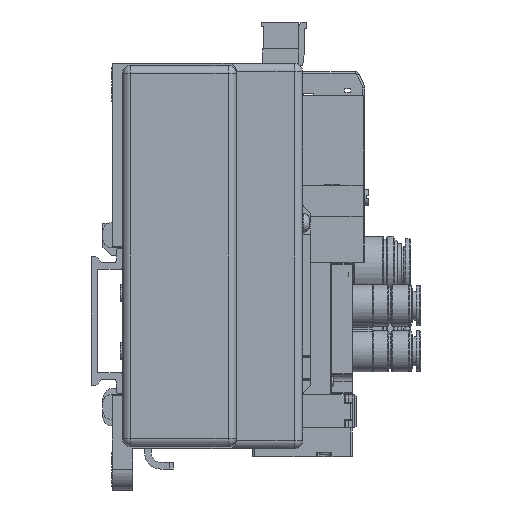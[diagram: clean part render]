
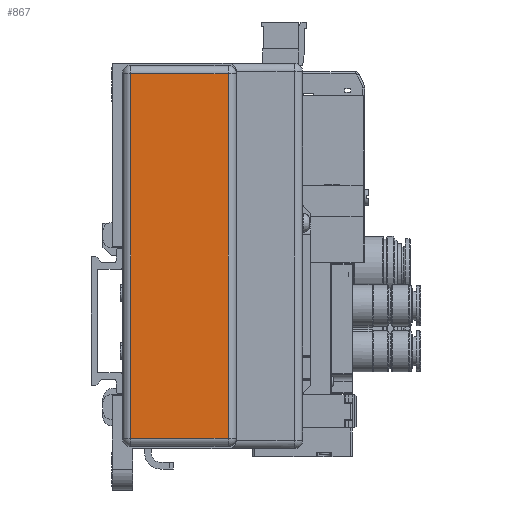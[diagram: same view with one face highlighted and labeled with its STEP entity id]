
A CAD part, left-side view. The second image highlights one B-rep face of the part: STEP entity #867.
In plain terms, the highlighted planar face has unit normal (-1, 0, 0).
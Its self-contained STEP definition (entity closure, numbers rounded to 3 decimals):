
#867=ADVANCED_FACE('',(#2761),#2760,.T.);
#2760=PLANE('',#20901);
#2761=FACE_OUTER_BOUND('',#20902,.T.);
#20898=CARTESIAN_POINT('',(-3.,-35.35,-37.1));
#20899=DIRECTION('',(-1.,0.,0.));
#20900=DIRECTION('',(0.,0.,1.));
#20901=AXIS2_PLACEMENT_3D('',#20898,#20899,#20900);
#20902=EDGE_LOOP('',(#31633,#31634,#31635,#31636));
#31633=ORIENTED_EDGE('',*,*,#41217,.T.);
#31634=ORIENTED_EDGE('',*,*,#41218,.T.);
#31635=ORIENTED_EDGE('',*,*,#41219,.T.);
#31636=ORIENTED_EDGE('',*,*,#41220,.T.);
#41217=EDGE_CURVE('',#46202,#46203,#46204,.T.);
#41218=EDGE_CURVE('',#46203,#46093,#46210,.T.);
#41219=EDGE_CURVE('',#46093,#46216,#46217,.T.);
#41220=EDGE_CURVE('',#46216,#46202,#46223,.T.);
#46093=VERTEX_POINT('',#78145);
#46202=VERTEX_POINT('',#78208);
#46203=VERTEX_POINT('',#78209);
#46204=LINE('',#78210,#78211);
#46210=LINE('',#78213,#78214);
#46216=VERTEX_POINT('',#78216);
#46217=LINE('',#78217,#78218);
#46223=LINE('',#78220,#78221);
#78145=CARTESIAN_POINT('',(-3.,-33.,-28.3));
#78208=CARTESIAN_POINT('',(-3.,-9.5,59.7));
#78209=CARTESIAN_POINT('',(-3.,-9.5,-28.3));
#78210=CARTESIAN_POINT('',(-3.,-9.5,59.7));
#78211=VECTOR('',#78212,88.);
#78212=DIRECTION('',(0.,0.,-1.));
#78213=CARTESIAN_POINT('',(-3.,-9.5,-28.3));
#78214=VECTOR('',#78215,23.5);
#78215=DIRECTION('',(0.,-1.,0.));
#78216=CARTESIAN_POINT('',(-3.,-33.,59.7));
#78217=CARTESIAN_POINT('',(-3.,-33.,-28.3));
#78218=VECTOR('',#78219,88.);
#78219=DIRECTION('',(0.,0.,1.));
#78220=CARTESIAN_POINT('',(-3.,-33.,59.7));
#78221=VECTOR('',#78222,23.5);
#78222=DIRECTION('',(0.,1.,0.));
